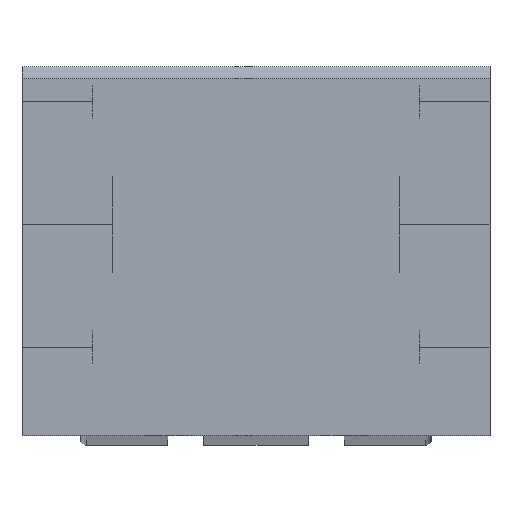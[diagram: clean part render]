
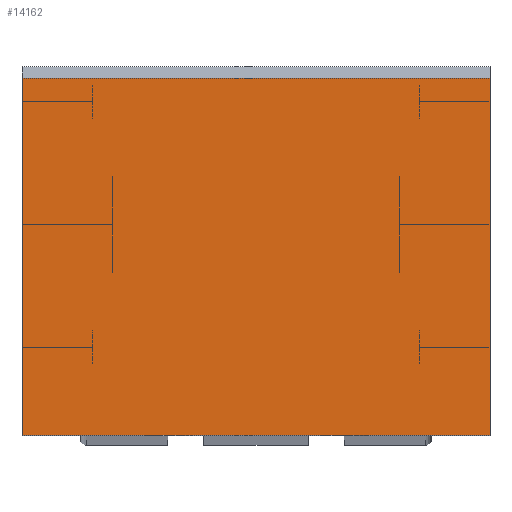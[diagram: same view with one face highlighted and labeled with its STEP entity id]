
A CAD part, top view. The second image highlights one B-rep face of the part: STEP entity #14162.
In plain terms, the highlighted planar face has unit normal (0, 0, 1).
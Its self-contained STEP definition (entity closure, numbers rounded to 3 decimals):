
#182 = EDGE_LOOP ( 'NONE', ( #14954, #11245, #16245, #9201 ) ) ;
#282 = AXIS2_PLACEMENT_3D ( 'NONE', #14792, #17672, #4833 ) ;
#986 = LINE ( 'NONE', #12259, #12762 ) ;
#1412 = CARTESIAN_POINT ( 'NONE',  ( 40., 0., 29.5 ) ) ;
#2543 = EDGE_CURVE ( 'NONE', #18324, #14819, #986, .T. ) ;
#3091 = CARTESIAN_POINT ( 'NONE',  ( 40., 0., 29.5 ) ) ;
#3463 = CARTESIAN_POINT ( 'NONE',  ( -40., 0., 29.5 ) ) ;
#3809 = EDGE_CURVE ( 'NONE', #18324, #15203, #7842, .T. ) ;
#4833 = DIRECTION ( 'NONE',  ( 0., 1., 0. ) ) ;
#6109 = CARTESIAN_POINT ( 'NONE',  ( -40., 61., 29.5 ) ) ;
#6325 = VECTOR ( 'NONE', #10941, 1000. ) ;
#7573 = CARTESIAN_POINT ( 'NONE',  ( 40., 61., 29.5 ) ) ;
#7842 = LINE ( 'NONE', #7573, #12954 ) ;
#8378 = LINE ( 'NONE', #1412, #9271 ) ;
#8966 = PLANE ( 'NONE',  #282 ) ;
#9201 = ORIENTED_EDGE ( 'NONE', *, *, #13414, .F. ) ;
#9271 = VECTOR ( 'NONE', #11213, 1000. ) ;
#10655 = DIRECTION ( 'NONE',  ( -1., 0., 0. ) ) ;
#10941 = DIRECTION ( 'NONE',  ( 0., -1., 0. ) ) ;
#11213 = DIRECTION ( 'NONE',  ( -1., 0., 0. ) ) ;
#11245 = ORIENTED_EDGE ( 'NONE', *, *, #3809, .T. ) ;
#12068 = CARTESIAN_POINT ( 'NONE',  ( 40., 61., 29.5 ) ) ;
#12259 = CARTESIAN_POINT ( 'NONE',  ( 40., 0., 29.5 ) ) ;
#12621 = VERTEX_POINT ( 'NONE', #3463 ) ;
#12762 = VECTOR ( 'NONE', #13678, 1000. ) ;
#12954 = VECTOR ( 'NONE', #10655, 1000. ) ;
#13414 = EDGE_CURVE ( 'NONE', #14819, #12621, #8378, .T. ) ;
#13678 = DIRECTION ( 'NONE',  ( 0., -1., 0. ) ) ;
#14162 = ADVANCED_FACE ( 'NONE', ( #14880 ), #8966, .F. ) ;
#14202 = EDGE_CURVE ( 'NONE', #15203, #12621, #17770, .T. ) ;
#14792 = CARTESIAN_POINT ( 'NONE',  ( 40., 0., 29.5 ) ) ;
#14819 = VERTEX_POINT ( 'NONE', #3091 ) ;
#14880 = FACE_OUTER_BOUND ( 'NONE', #182, .T. ) ;
#14954 = ORIENTED_EDGE ( 'NONE', *, *, #2543, .F. ) ;
#15203 = VERTEX_POINT ( 'NONE', #6109 ) ;
#16245 = ORIENTED_EDGE ( 'NONE', *, *, #14202, .T. ) ;
#16633 = CARTESIAN_POINT ( 'NONE',  ( -40., 0., 29.5 ) ) ;
#17672 = DIRECTION ( 'NONE',  ( 0., 0., -1. ) ) ;
#17770 = LINE ( 'NONE', #16633, #6325 ) ;
#18324 = VERTEX_POINT ( 'NONE', #12068 ) ;
